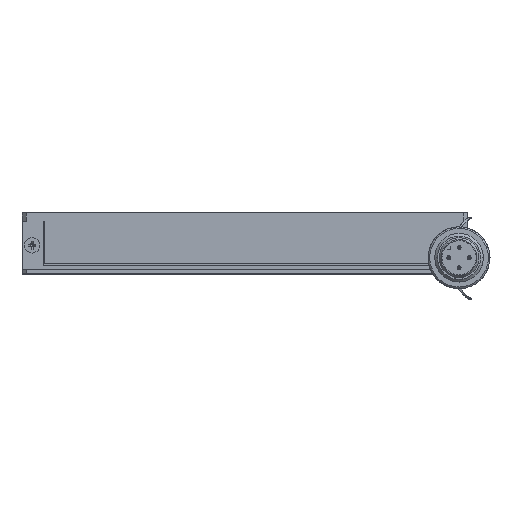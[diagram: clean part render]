
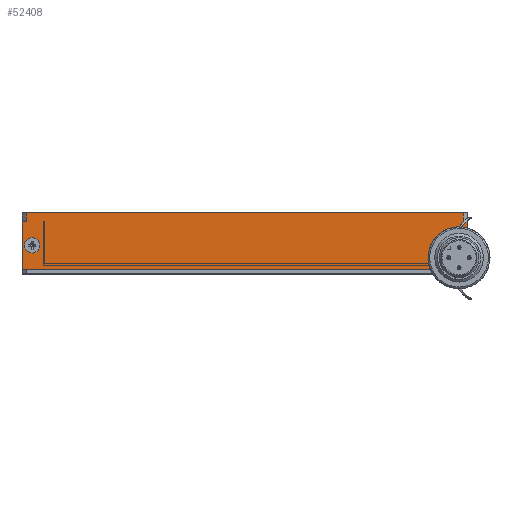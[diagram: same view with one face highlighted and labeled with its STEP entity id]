
A CAD part, top view. The second image highlights one B-rep face of the part: STEP entity #52408.
In plain terms, the highlighted planar face has unit normal (0, 0, 1).
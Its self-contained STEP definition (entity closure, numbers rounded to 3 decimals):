
#544 = VERTEX_POINT ( 'NONE', #13035 ) ;
#1566 = VECTOR ( 'NONE', #51854, 1000. ) ;
#1686 = ORIENTED_EDGE ( 'NONE', *, *, #15108, .F. ) ;
#1928 = CARTESIAN_POINT ( 'NONE',  ( -139.195, -23.728, 131.092 ) ) ;
#2809 = LINE ( 'NONE', #23069, #1566 ) ;
#3667 = VERTEX_POINT ( 'NONE', #48548 ) ;
#4016 = ORIENTED_EDGE ( 'NONE', *, *, #25334, .F. ) ;
#4148 = EDGE_LOOP ( 'NONE', ( #14958, #1686 ) ) ;
#4581 = CIRCLE ( 'NONE', #39965, 1.9 ) ;
#4760 = FACE_BOUND ( 'NONE', #57034, .T. ) ;
#5168 = CARTESIAN_POINT ( 'NONE',  ( -143.595, -17.728, 131.092 ) ) ;
#5371 = VECTOR ( 'NONE', #45098, 1000. ) ;
#6143 = CARTESIAN_POINT ( 'NONE',  ( -34.595, -15.728, 131.092 ) ) ;
#7432 = CARTESIAN_POINT ( 'NONE',  ( -33.595, -17.728, 131.092 ) ) ;
#8690 = LINE ( 'NONE', #5168, #29374 ) ;
#9730 = VERTEX_POINT ( 'NONE', #7432 ) ;
#10741 = CARTESIAN_POINT ( 'NONE',  ( -34.195, -23.728, 131.092 ) ) ;
#10844 = CIRCLE ( 'NONE', #22005, 1.9 ) ;
#11190 = VECTOR ( 'NONE', #25013, 1000. ) ;
#11871 = CARTESIAN_POINT ( 'NONE',  ( -143.595, -26.728, 131.092 ) ) ;
#12924 = CARTESIAN_POINT ( 'NONE',  ( -141.095, -23.728, 131.092 ) ) ;
#12965 = ORIENTED_EDGE ( 'NONE', *, *, #20775, .F. ) ;
#13035 = CARTESIAN_POINT ( 'NONE',  ( -37.595, -29.728, 131.092 ) ) ;
#13215 = VECTOR ( 'NONE', #49350, 1000. ) ;
#13852 = ORIENTED_EDGE ( 'NONE', *, *, #44577, .T. ) ;
#14358 = ORIENTED_EDGE ( 'NONE', *, *, #18992, .F. ) ;
#14628 = LINE ( 'NONE', #48783, #49870 ) ;
#14753 = ORIENTED_EDGE ( 'NONE', *, *, #39497, .T. ) ;
#14958 = ORIENTED_EDGE ( 'NONE', *, *, #34579, .F. ) ;
#15108 = EDGE_CURVE ( 'NONE', #48430, #35215, #41294, .T. ) ;
#16441 = CARTESIAN_POINT ( 'NONE',  ( -143.595, -17.728, 131.092 ) ) ;
#16587 = DIRECTION ( 'NONE',  ( 0., -1., 0. ) ) ;
#16758 = VECTOR ( 'NONE', #38456, 1000. ) ;
#16863 = EDGE_CURVE ( 'NONE', #60536, #9730, #8690, .T. ) ;
#17093 = CARTESIAN_POINT ( 'NONE',  ( -37.595, -29.728, 131.092 ) ) ;
#18741 = FACE_BOUND ( 'NONE', #4148, .T. ) ;
#18992 = EDGE_CURVE ( 'NONE', #56322, #34560, #28558, .T. ) ;
#19161 = DIRECTION ( 'NONE',  ( 0., -1., 0. ) ) ;
#20409 = CARTESIAN_POINT ( 'NONE',  ( -36.095, -23.728, 131.092 ) ) ;
#20775 = EDGE_CURVE ( 'NONE', #9730, #61733, #58573, .T. ) ;
#20854 = EDGE_CURVE ( 'NONE', #3667, #26805, #25956, .T. ) ;
#21208 = DIRECTION ( 'NONE',  ( 0., -1., 0. ) ) ;
#21685 = AXIS2_PLACEMENT_3D ( 'NONE', #24707, #48441, #57951 ) ;
#22005 = AXIS2_PLACEMENT_3D ( 'NONE', #12924, #56278, #19161 ) ;
#22166 = ORIENTED_EDGE ( 'NONE', *, *, #40811, .F. ) ;
#22898 = CARTESIAN_POINT ( 'NONE',  ( -142.595, -15.728, 131.092 ) ) ;
#23069 = CARTESIAN_POINT ( 'NONE',  ( -143.595, -17.728, 131.092 ) ) ;
#24707 = CARTESIAN_POINT ( 'NONE',  ( -143.595, -15.728, 131.092 ) ) ;
#24789 = CARTESIAN_POINT ( 'NONE',  ( -143.595, -29.728, 131.092 ) ) ;
#25013 = DIRECTION ( 'NONE',  ( 0., -1., 0. ) ) ;
#25023 = EDGE_LOOP ( 'NONE', ( #14753, #58975, #44398, #22166, #4016, #36467, #12965, #50976, #13852, #29564 ) ) ;
#25077 = DIRECTION ( 'NONE',  ( 1., 0., 0. ) ) ;
#25334 = EDGE_CURVE ( 'NONE', #25483, #544, #45237, .T. ) ;
#25462 = EDGE_CURVE ( 'NONE', #46060, #41263, #2809, .T. ) ;
#25483 = VERTEX_POINT ( 'NONE', #32844 ) ;
#25809 = LINE ( 'NONE', #11871, #5371 ) ;
#25956 = LINE ( 'NONE', #35717, #13215 ) ;
#26553 = AXIS2_PLACEMENT_3D ( 'NONE', #20409, #39666, #16587 ) ;
#26805 = VERTEX_POINT ( 'NONE', #36567 ) ;
#27037 = DIRECTION ( 'NONE',  ( 0., -1., 0. ) ) ;
#28237 = CARTESIAN_POINT ( 'NONE',  ( -142.595, -17.728, 131.092 ) ) ;
#28558 = CIRCLE ( 'NONE', #26553, 1.9 ) ;
#29264 = ORIENTED_EDGE ( 'NONE', *, *, #58918, .F. ) ;
#29374 = VECTOR ( 'NONE', #48831, 1000. ) ;
#29489 = DIRECTION ( 'NONE',  ( -1., 0., 0. ) ) ;
#29564 = ORIENTED_EDGE ( 'NONE', *, *, #20854, .F. ) ;
#29726 = CARTESIAN_POINT ( 'NONE',  ( -33.595, -17.728, 131.092 ) ) ;
#31285 = CARTESIAN_POINT ( 'NONE',  ( -36.095, -23.728, 131.092 ) ) ;
#32844 = CARTESIAN_POINT ( 'NONE',  ( -37.595, -26.728, 131.092 ) ) ;
#34560 = VERTEX_POINT ( 'NONE', #58048 ) ;
#34579 = EDGE_CURVE ( 'NONE', #35215, #48430, #10844, .T. ) ;
#35215 = VERTEX_POINT ( 'NONE', #1928 ) ;
#35717 = CARTESIAN_POINT ( 'NONE',  ( -143.595, -15.728, 131.092 ) ) ;
#35943 = VECTOR ( 'NONE', #21208, 1000. ) ;
#36467 = ORIENTED_EDGE ( 'NONE', *, *, #51754, .F. ) ;
#36567 = CARTESIAN_POINT ( 'NONE',  ( -34.595, -15.728, 131.092 ) ) ;
#37211 = CARTESIAN_POINT ( 'NONE',  ( -34.595, -17.728, 131.092 ) ) ;
#38456 = DIRECTION ( 'NONE',  ( 0., 1., 0. ) ) ;
#39497 = EDGE_CURVE ( 'NONE', #3667, #52537, #61211, .T. ) ;
#39666 = DIRECTION ( 'NONE',  ( 0., 0., 1. ) ) ;
#39965 = AXIS2_PLACEMENT_3D ( 'NONE', #31285, #50604, #41076 ) ;
#40710 = EDGE_CURVE ( 'NONE', #41263, #52537, #14628, .T. ) ;
#40811 = EDGE_CURVE ( 'NONE', #544, #46060, #58314, .T. ) ;
#41076 = DIRECTION ( 'NONE',  ( 0., -1., 0. ) ) ;
#41263 = VERTEX_POINT ( 'NONE', #16441 ) ;
#41294 = CIRCLE ( 'NONE', #42289, 1.9 ) ;
#41358 = CARTESIAN_POINT ( 'NONE',  ( -33.595, -26.728, 131.092 ) ) ;
#42289 = AXIS2_PLACEMENT_3D ( 'NONE', #55325, #45813, #59450 ) ;
#43688 = FACE_OUTER_BOUND ( 'NONE', #25023, .T. ) ;
#43692 = CARTESIAN_POINT ( 'NONE',  ( -142.995, -23.728, 131.092 ) ) ;
#44398 = ORIENTED_EDGE ( 'NONE', *, *, #25462, .F. ) ;
#44577 = EDGE_CURVE ( 'NONE', #60536, #26805, #54284, .T. ) ;
#45098 = DIRECTION ( 'NONE',  ( -1., 0., 0. ) ) ;
#45237 = LINE ( 'NONE', #17093, #35943 ) ;
#45813 = DIRECTION ( 'NONE',  ( 0., 0., 1. ) ) ;
#46060 = VERTEX_POINT ( 'NONE', #24789 ) ;
#46465 = VECTOR ( 'NONE', #27037, 1000. ) ;
#46867 = VECTOR ( 'NONE', #29489, 1000. ) ;
#48430 = VERTEX_POINT ( 'NONE', #43692 ) ;
#48441 = DIRECTION ( 'NONE',  ( 0., 0., -1. ) ) ;
#48548 = CARTESIAN_POINT ( 'NONE',  ( -142.595, -15.728, 131.092 ) ) ;
#48783 = CARTESIAN_POINT ( 'NONE',  ( -143.595, -17.728, 131.092 ) ) ;
#48831 = DIRECTION ( 'NONE',  ( 1., 0., 0. ) ) ;
#49350 = DIRECTION ( 'NONE',  ( 1., 0., 0. ) ) ;
#49870 = VECTOR ( 'NONE', #25077, 1000. ) ;
#50604 = DIRECTION ( 'NONE',  ( 0., 0., 1. ) ) ;
#50976 = ORIENTED_EDGE ( 'NONE', *, *, #16863, .F. ) ;
#51754 = EDGE_CURVE ( 'NONE', #61733, #25483, #25809, .T. ) ;
#51854 = DIRECTION ( 'NONE',  ( 0., 1., 0. ) ) ;
#52408 = ADVANCED_FACE ( 'NONE', ( #43688, #4760, #18741 ), #61796, .F. ) ;
#52537 = VERTEX_POINT ( 'NONE', #28237 ) ;
#54284 = LINE ( 'NONE', #6143, #16758 ) ;
#55325 = CARTESIAN_POINT ( 'NONE',  ( -141.095, -23.728, 131.092 ) ) ;
#56278 = DIRECTION ( 'NONE',  ( 0., 0., 1. ) ) ;
#56322 = VERTEX_POINT ( 'NONE', #10741 ) ;
#57034 = EDGE_LOOP ( 'NONE', ( #14358, #29264 ) ) ;
#57688 = CARTESIAN_POINT ( 'NONE',  ( -143.595, -29.728, 131.092 ) ) ;
#57951 = DIRECTION ( 'NONE',  ( -1., 0., 0. ) ) ;
#58048 = CARTESIAN_POINT ( 'NONE',  ( -37.995, -23.728, 131.092 ) ) ;
#58314 = LINE ( 'NONE', #57688, #46867 ) ;
#58573 = LINE ( 'NONE', #29726, #11190 ) ;
#58918 = EDGE_CURVE ( 'NONE', #34560, #56322, #4581, .T. ) ;
#58975 = ORIENTED_EDGE ( 'NONE', *, *, #40710, .F. ) ;
#59450 = DIRECTION ( 'NONE',  ( 0., -1., 0. ) ) ;
#60536 = VERTEX_POINT ( 'NONE', #37211 ) ;
#61211 = LINE ( 'NONE', #22898, #46465 ) ;
#61733 = VERTEX_POINT ( 'NONE', #41358 ) ;
#61796 = PLANE ( 'NONE',  #21685 ) ;
